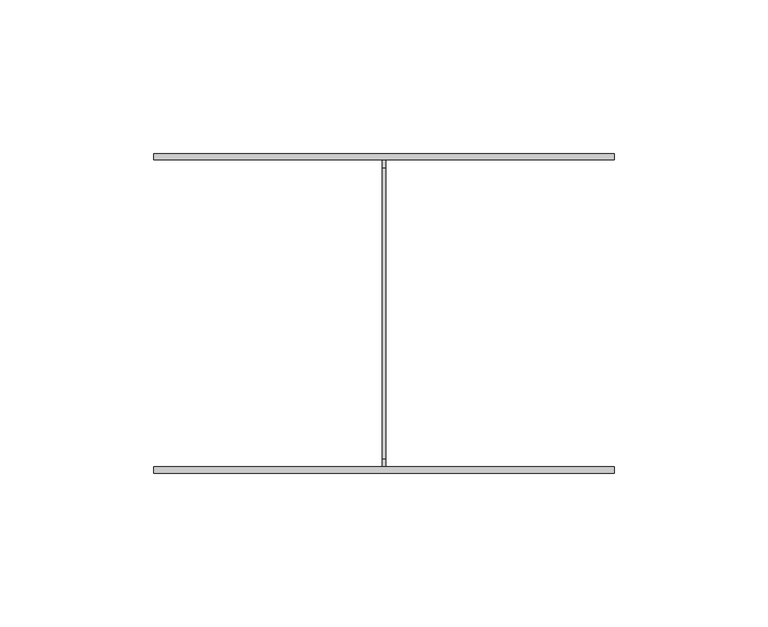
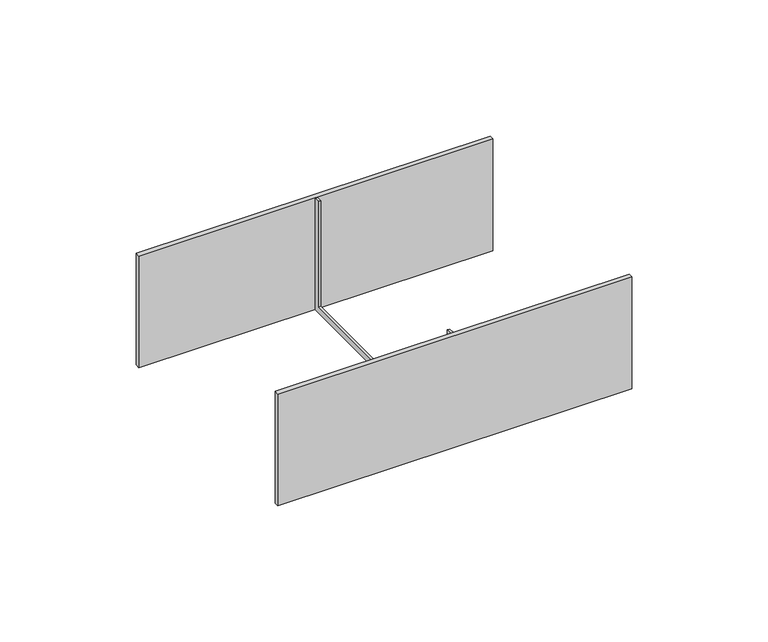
"""IFC4 building model written with IfcOpenShell, lengths in millimetres: cable carrier fitting geometry, BAKS_Plate_connector : LZCH50."""

from ifc_helpers import new_model, si_unit, frame, origin, place, context, project, spatial, polyline, outline, extrude, source, transform, mapped, element, save


def cable_carrier_fitting_b0ef1419(model_context):
    return source(origin(), model_context, "Body", "SweptSolid", [
        extrude(outline(polyline([(75.5, 52.0), (75.5, 50.0), (-74.5, 50.0), (-74.5, 52.0), (75.5, 52.0)])), frame((0.0, 0.0, -25.0), z_axis=(0.0, 0.0, 1.0), x_axis=(1.0, 0.0, 0.0)), (0.0, 0.0, 1.0), 50.0),
        extrude(outline(polyline([(75.5, -50.0), (75.5, -52.0), (-74.5, -52.0), (-74.5, -50.0), (75.5, -50.0)])), frame((0.0, 0.0, -25.0), z_axis=(0.0, 0.0, 1.0), x_axis=(1.0, 0.0, 0.0)), (0.0, 0.0, 1.0), 50.0),
        extrude(outline(polyline([(-50.0, -25.0), (-50.0, 25.0), (-47.46, 25.0), (-47.46, -22.46), (47.46, -22.46), (47.46, 25.0), (50.0, 25.0), (50.0, -25.0), (-50.0, -25.0)])), frame((0.0, 0.0, 0.0), z_axis=(1.0, 0.0, 0.0), x_axis=(0.0, 1.0, 0.0)), (0.0, 0.0, 1.0), 1.0),
    ])


if __name__ == "__main__":
    model = new_model("IFC4")
    model_context = context("Model", 3, world=origin())
    ifc_project = project(units=[si_unit("LENGTHUNIT", "METRE", prefix="MILLI")], contexts=[model_context])
    site = spatial("IfcSite", under=ifc_project)
    building = spatial("IfcBuilding", under=site)
    placement = place(None, origin())
    cable_carrier_fitting_shape = cable_carrier_fitting_b0ef1419(model_context)
    element("IfcCableCarrierFitting", 1, ObjectType="BAKS_Plate_connector : LZCH50", at=placement, inside=building, context=model_context, shape_type="MappedRepresentation", body=[
        mapped(cable_carrier_fitting_shape, transform((0.0, 0.0, 0.0), x_axis=(1.0, 0.0, 0.0), y_axis=(0.0, 1.0, 0.0), z_axis=(0.0, 0.0, 1.0))),
    ])
    save(model, "model.ifc")
